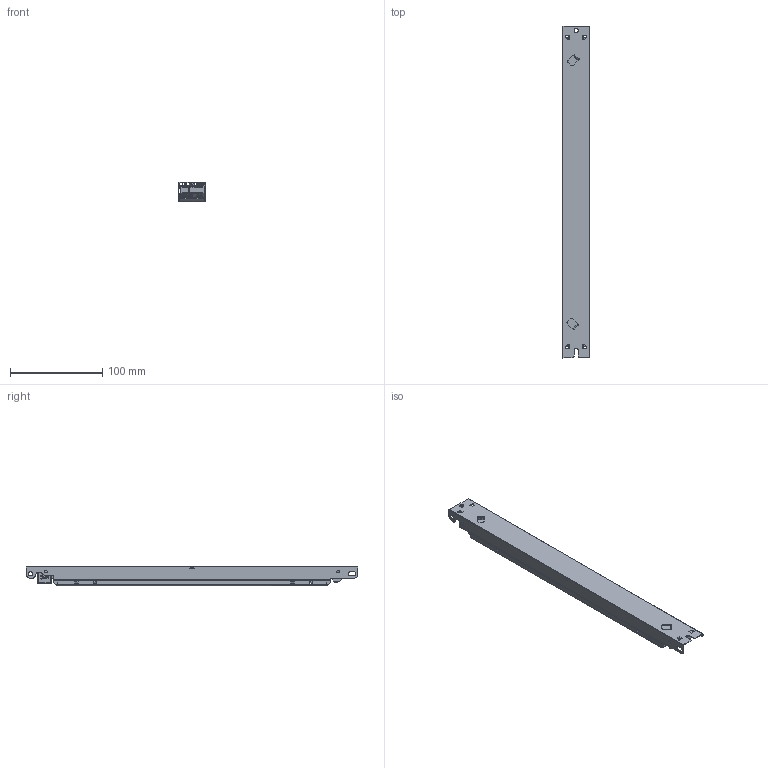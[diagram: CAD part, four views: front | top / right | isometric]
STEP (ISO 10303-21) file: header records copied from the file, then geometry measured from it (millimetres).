
FILE_DESCRIPTION (( 'STEP AP203' ), '1' );
FILE_NAME ('LL50iC-DA-100-1200 G2.STEP', '2024-09-04T19:24:29', ( '' ), ( '' ), 'SwSTEP 2.0', 'SolidWorks 2022', '' );
FILE_SCHEMA (( 'CONFIG_CONTROL_DESIGN' ));
Length unit declared in the file: millimetre
Products named in the file (1): LL50iC-DA-100-1200 G2
Bounding box: 30.28 x 360 x 20.9 mm (x, y, z)
Volume: 38927.1 mm3; surface area: 97025.1 mm2
Topology: 8 solids, 8 shells, 1343 faces, 3713 edges, 2422 vertices
Faces by surface type: bspline 1136, plane 153, cylinder 46, cone 8
Entity records: 43864 total; most frequent: CARTESIAN_POINT 20112, ORIENTED_EDGE 7418, EDGE_CURVE 3709, B_SPLINE_CURVE_WITH_KNOTS 2705, VERTEX_POINT 2422, EDGE_LOOP 1445, ADVANCED_FACE 1343, FACE_OUTER_BOUND 1343
